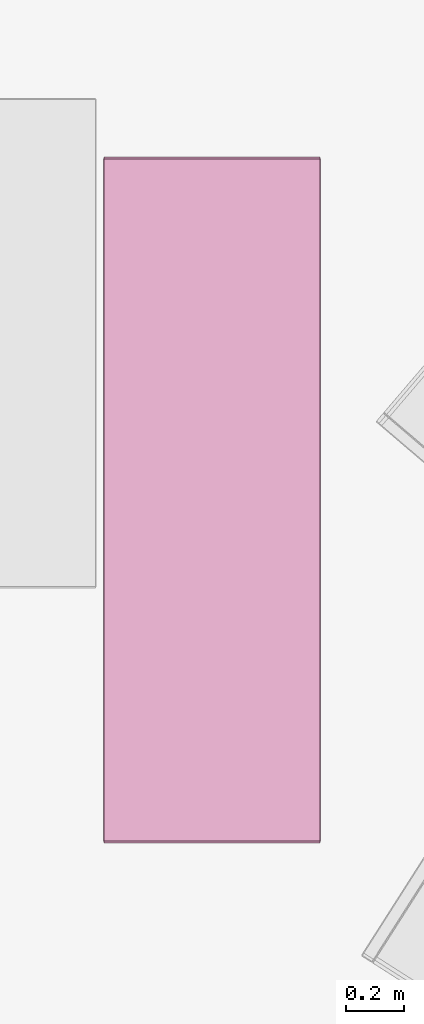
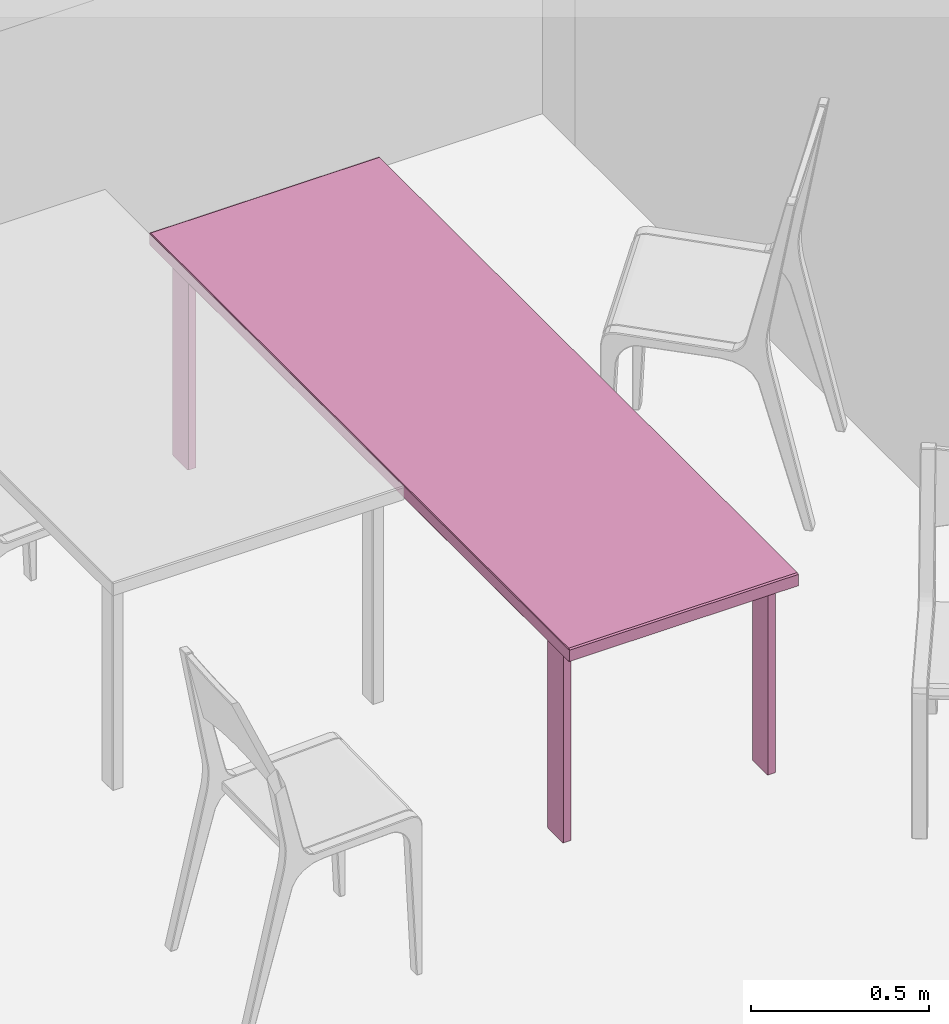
# One storey, part 15 of 26: 1 furnishing.
"""IFC2X3 building model written with IfcOpenShell, lengths in metres."""

from ifc_helpers import new_model, si_unit, direction, frame, origin_with_axes, place, context, project, spatial, faceted_brep, type_object, element, save


model = new_model("IFC2X3")

# Units and contexts
model_context = context("Model", 3, precision=1e-05, world=origin_with_axes(), true_north=direction((0.996, -0.093, 0.0)))
ifc_project = project(units=[si_unit("AREAUNIT", "SQUARE_METRE"), si_unit("LENGTHUNIT", "METRE")], contexts=[model_context])

# Site, building, storey, space
site_placement = place(None, origin_with_axes())
site = spatial("IfcSite", under=ifc_project, at=site_placement, Name="Site", CompositionType="ELEMENT")
building_placement = place(site_placement, origin_with_axes())
building = spatial("IfcBuilding", under=site, at=building_placement, Name="Building", CompositionType="ELEMENT")
storey_placement = place(building_placement, frame((0.0, 0.0, 0.0500001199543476), z_axis=(0.0, 0.0, 1.0), x_axis=(1.0, 0.0, 0.0)))
storey = spatial("IfcBuildingStorey", under=building, at=storey_placement, Name="Story 0", CompositionType="ELEMENT", Elevation=0.0500000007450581)
space_placement = place(storey_placement, frame((2.34669395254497, 6.80580808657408, 0.0), z_axis=(0.0, 0.0, 1.0), x_axis=(1.0, 0.0, 0.0)))
space = spatial("IfcSpace", under=storey, at=space_placement, Name="010", CompositionType="ELEMENT", InteriorOrExteriorSpace="INTERNAL")

# Furnishing
furniture_type = type_object("IfcFurnitureType", Name="73f42357-d802-443e-b357-8b5bc0ae0b0e")
furnishing_placement = place(space_placement, frame((2.22148040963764, 2.43083665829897, 0.363974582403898), z_axis=(0.0, 0.0, 0.999999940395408), x_axis=(0.999999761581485, 0.0, 0.0)))
element("IfcFurnishingElement", 1, at=furnishing_placement, inside=space, type_object=furniture_type, Name="Table", ObjectType="Table", context=model_context, shape_type="Brep", body=[
    faceted_brep([(0.3719, 1.1829, 0.3218), (-0.3719, 1.1829, 0.3218), (0.3719, 1.1829, 0.3608), (-0.3719, 1.1829, 0.3608), (0.3719, 1.1829, 0.3608), (-0.3719, 1.1829, 0.3218), (0.3188, -1.0952, 0.3299), (0.3188, -1.0177, 0.3299), (0.3188, -1.0952, -0.3608), (0.3188, -1.0177, -0.3608), (0.3188, -1.0952, -0.3608), (0.3188, -1.0177, 0.3299), (0.3452, -1.1012, 0.3299), (0.3207, -1.1012, 0.3299), (0.3452, -1.1012, -0.3608), (0.3207, -1.1012, -0.3608), (0.3452, -1.1012, -0.3608), (0.3207, -1.1012, 0.3299), (0.3471, -1.0177, 0.3299), (0.3471, -1.0952, 0.3299), (0.3471, -1.0177, -0.3608), (0.3471, -1.0952, -0.3608), (0.3471, -1.0177, -0.3608), (0.3471, -1.0952, 0.3299), (0.3207, -1.0117, 0.3299), (0.3452, -1.0117, 0.3299), (0.3207, -1.0117, -0.3608), (0.3452, -1.0117, -0.3608), (0.3207, -1.0117, -0.3608), (0.3452, -1.0117, 0.3299), (0.3188, 1.0952, 0.3299), (0.3188, 1.0952, -0.3608), (0.3188, 1.0177, 0.3299), (0.3188, 1.0177, -0.3608), (0.3188, 1.0177, 0.3299), (0.3188, 1.0952, -0.3608), (0.3452, 1.1012, 0.3299), (0.3452, 1.1012, -0.3608), (0.3207, 1.1012, 0.3299), (0.3207, 1.1012, -0.3608), (0.3207, 1.1012, 0.3299), (0.3452, 1.1012, -0.3608), (0.3471, 1.0177, 0.3299), (0.3471, 1.0177, -0.3608), (0.3471, 1.0952, 0.3299), (0.3471, 1.0952, -0.3608), (0.3471, 1.0952, 0.3299), (0.3471, 1.0177, -0.3608), (0.3207, 1.0117, 0.3299), (0.3207, 1.0117, -0.3608), (0.3452, 1.0117, 0.3299), (0.3452, 1.0117, -0.3608), (0.3452, 1.0117, 0.3299), (0.3207, 1.0117, -0.3608), (0.3738, 1.177, 0.3218), (0.3738, 1.177, 0.3608), (0.3738, -1.177, 0.3218), (0.3738, -1.177, 0.3608), (0.3738, -1.177, 0.3218), (0.3738, 1.177, 0.3608), (-0.3738, 1.177, 0.3608), (-0.3738, 1.177, 0.3218), (-0.3738, -1.177, 0.3608), (-0.3738, -1.177, 0.3218), (-0.3738, -1.177, 0.3608), (-0.3738, 1.177, 0.3218), (-0.3188, -1.0952, 0.3299), (-0.3188, -1.0952, -0.3608), (-0.3188, -1.0177, 0.3299), (-0.3188, -1.0177, -0.3608), (-0.3188, -1.0177, 0.3299), (-0.3188, -1.0952, -0.3608), (-0.3452, -1.1012, 0.3299), (-0.3452, -1.1012, -0.3608), (-0.3207, -1.1012, 0.3299), (-0.3207, -1.1012, -0.3608), (-0.3207, -1.1012, 0.3299), (-0.3452, -1.1012, -0.3608), (-0.3471, -1.0177, 0.3299), (-0.3471, -1.0177, -0.3608), (-0.3471, -1.0952, 0.3299), (-0.3471, -1.0952, -0.3608), (-0.3471, -1.0952, 0.3299), (-0.3471, -1.0177, -0.3608), (-0.3207, -1.0117, 0.3299), (-0.3207, -1.0117, -0.3608), (-0.3452, -1.0117, 0.3299), (-0.3452, -1.0117, -0.3608), (-0.3452, -1.0117, 0.3299), (-0.3207, -1.0117, -0.3608), (-0.3188, 1.0952, 0.3299), (-0.3188, 1.0177, 0.3299), (-0.3188, 1.0952, -0.3608), (-0.3188, 1.0177, -0.3608), (-0.3188, 1.0952, -0.3608), (-0.3188, 1.0177, 0.3299), (-0.3452, 1.1012, 0.3299), (-0.3207, 1.1012, 0.3299), (-0.3452, 1.1012, -0.3608), (-0.3207, 1.1012, -0.3608), (-0.3452, 1.1012, -0.3608), (-0.3207, 1.1012, 0.3299), (-0.3471, 1.0177, 0.3299), (-0.3471, 1.0952, 0.3299), (-0.3471, 1.0177, -0.3608), (-0.3471, 1.0952, -0.3608), (-0.3471, 1.0177, -0.3608), (-0.3471, 1.0952, 0.3299), (-0.3207, 1.0117, 0.3299), (-0.3452, 1.0117, 0.3299), (-0.3207, 1.0117, -0.3608), (-0.3452, 1.0117, -0.3608), (-0.3207, 1.0117, -0.3608), (-0.3452, 1.0117, 0.3299), (-0.3719, 1.177, 0.364), (-0.3719, -1.177, 0.364), (0.3719, 1.177, 0.364), (0.3719, -1.177, 0.364), (0.3719, 1.177, 0.364), (-0.3719, -1.177, 0.364), (0.3719, -1.1829, 0.3218), (0.3719, -1.1829, 0.3608), (-0.3719, -1.1829, 0.3218), (-0.3719, -1.1829, 0.3608), (-0.3719, -1.1829, 0.3218), (0.3719, -1.1829, 0.3608), (0.3719, -1.177, 0.3185), (-0.3719, -1.177, 0.3185), (0.3719, 1.177, 0.3185), (-0.3719, 1.177, 0.3185), (0.3719, 1.177, 0.3185), (-0.3719, -1.177, 0.3185), (0.3452, -1.0952, 0.3331), (0.3452, -1.0177, 0.3331), (0.3207, -1.0952, 0.3331), (0.3207, -1.0177, 0.3331), (0.3207, -1.0952, 0.3331), (0.3452, -1.0177, 0.3331), (0.3452, -1.0177, -0.364), (0.3452, -1.0952, -0.364), (0.3207, -1.0177, -0.364), (0.3207, -1.0952, -0.364), (0.3207, -1.0177, -0.364), (0.3452, -1.0952, -0.364), (0.3452, 1.0952, -0.364), (0.3452, 1.0177, -0.364), (0.3207, 1.0952, -0.364), (0.3207, 1.0177, -0.364), (0.3207, 1.0952, -0.364), (0.3452, 1.0177, -0.364), (0.3452, 1.0177, 0.3331), (0.3452, 1.0952, 0.3331), (0.3207, 1.0177, 0.3331), (0.3207, 1.0952, 0.3331), (0.3207, 1.0177, 0.3331), (0.3452, 1.0952, 0.3331), (-0.3452, -1.0952, -0.364), (-0.3452, -1.0177, -0.364), (-0.3207, -1.0952, -0.364), (-0.3207, -1.0177, -0.364), (-0.3207, -1.0952, -0.364), (-0.3452, -1.0177, -0.364), (-0.3452, -1.0177, 0.3331), (-0.3452, -1.0952, 0.3331), (-0.3207, -1.0177, 0.3331), (-0.3207, -1.0952, 0.3331), (-0.3207, -1.0177, 0.3331), (-0.3452, -1.0952, 0.3331), (-0.3452, 1.0952, 0.3331), (-0.3452, 1.0177, 0.3331), (-0.3207, 1.0952, 0.3331), (-0.3207, 1.0177, 0.3331), (-0.3207, 1.0952, 0.3331), (-0.3452, 1.0177, 0.3331), (-0.3452, 1.0177, -0.364), (-0.3452, 1.0952, -0.364), (-0.3207, 1.0177, -0.364), (-0.3207, 1.0952, -0.364), (-0.3207, 1.0177, -0.364), (-0.3452, 1.0952, -0.364), (-0.3719, 1.177, 0.364), (-0.3719, 1.1829, 0.3608), (-0.3738, 1.177, 0.3608), (0.3207, -1.0177, -0.364), (0.3188, -1.0177, -0.3608), (0.3207, -1.0117, -0.3608), (0.3207, -1.0952, -0.364), (0.3207, -1.1012, -0.3608), (0.3188, -1.0952, -0.3608), (0.3452, -1.0952, -0.364), (0.3471, -1.0952, -0.3608), (0.3452, -1.1012, -0.3608), (0.3452, -1.0177, -0.364), (0.3452, -1.0117, -0.3608), (0.3471, -1.0177, -0.3608), (0.3207, -1.0177, 0.3331), (0.3207, -1.0117, 0.3299), (0.3188, -1.0177, 0.3299), (0.3207, 1.0117, -0.3608), (0.3188, 1.0177, -0.3608), (0.3207, 1.0177, -0.364), (0.3207, 1.0952, 0.3331), (0.3207, 1.1012, 0.3299), (0.3188, 1.0952, 0.3299), (0.3452, 1.0952, 0.3331), (0.3471, 1.0952, 0.3299), (0.3452, 1.1012, 0.3299), (0.3452, 1.0177, 0.3331), (0.3452, 1.0117, 0.3299), (0.3471, 1.0177, 0.3299), (0.3719, -1.1829, 0.3608), (0.3738, -1.177, 0.3608), (0.3719, -1.177, 0.364), (0.3719, 1.177, 0.364), (0.3738, 1.177, 0.3608), (0.3719, 1.1829, 0.3608), (-0.3719, -1.1829, 0.3218), (-0.3738, -1.177, 0.3218), (-0.3719, -1.177, 0.3185), (-0.3719, 1.177, 0.3185), (-0.3738, 1.177, 0.3218), (-0.3719, 1.1829, 0.3218), (-0.3207, -1.0117, -0.3608), (-0.3188, -1.0177, -0.3608), (-0.3207, -1.0177, -0.364), (-0.3207, -1.0952, 0.3331), (-0.3207, -1.1012, 0.3299), (-0.3188, -1.0952, 0.3299), (-0.3452, -1.0952, 0.3331), (-0.3471, -1.0952, 0.3299), (-0.3452, -1.1012, 0.3299), (-0.3452, -1.0177, 0.3331), (-0.3452, -1.0117, 0.3299), (-0.3471, -1.0177, 0.3299), (-0.3207, 1.0177, -0.364), (-0.3188, 1.0177, -0.3608), (-0.3207, 1.0117, -0.3608), (-0.3207, 1.0952, -0.364), (-0.3207, 1.1012, -0.3608), (-0.3188, 1.0952, -0.3608), (-0.3452, 1.0952, -0.364), (-0.3471, 1.0952, -0.3608), (-0.3452, 1.1012, -0.3608), (-0.3452, 1.0177, -0.364), (-0.3452, 1.0117, -0.3608), (-0.3471, 1.0177, -0.3608), (-0.3207, 1.0177, 0.3331), (-0.3207, 1.0117, 0.3299), (-0.3188, 1.0177, 0.3299), (-0.3719, -1.1829, 0.3608), (-0.3719, -1.177, 0.364), (-0.3738, -1.177, 0.3608), (0.3719, -1.1829, 0.3218), (0.3719, -1.177, 0.3185), (0.3738, -1.177, 0.3218), (0.3738, 1.177, 0.3218), (0.3719, 1.177, 0.3185), (0.3719, 1.1829, 0.3218), (0.3452, -1.0117, 0.3299), (0.3452, -1.0177, 0.3331), (0.3471, -1.0177, 0.3299), (0.3471, -1.0952, 0.3299), (0.3452, -1.0952, 0.3331), (0.3452, -1.1012, 0.3299), (0.3207, -1.1012, 0.3299), (0.3207, -1.0952, 0.3331), (0.3188, -1.0952, 0.3299), (0.3452, 1.0117, -0.3608), (0.3452, 1.0177, -0.364), (0.3471, 1.0177, -0.3608), (0.3471, 1.0952, -0.3608), (0.3452, 1.0952, -0.364), (0.3452, 1.1012, -0.3608), (0.3207, 1.1012, -0.3608), (0.3207, 1.0952, -0.364), (0.3188, 1.0952, -0.3608), (0.3207, 1.0117, 0.3299), (0.3207, 1.0177, 0.3331), (0.3188, 1.0177, 0.3299), (-0.3452, -1.0117, -0.3608), (-0.3452, -1.0177, -0.364), (-0.3471, -1.0177, -0.3608), (-0.3471, -1.0952, -0.3608), (-0.3452, -1.0952, -0.364), (-0.3452, -1.1012, -0.3608), (-0.3207, -1.1012, -0.3608), (-0.3207, -1.0952, -0.364), (-0.3188, -1.0952, -0.3608), (-0.3207, -1.0117, 0.3299), (-0.3207, -1.0177, 0.3331), (-0.3188, -1.0177, 0.3299), (-0.3452, 1.0117, 0.3299), (-0.3452, 1.0177, 0.3331), (-0.3471, 1.0177, 0.3299), (-0.3471, 1.0952, 0.3299), (-0.3452, 1.0952, 0.3331), (-0.3452, 1.1012, 0.3299), (-0.3207, 1.1012, 0.3299), (-0.3207, 1.0952, 0.3331), (-0.3188, 1.0952, 0.3299), (-0.3719, 1.1829, 0.3608), (-0.3719, 1.1829, 0.3218), (-0.3738, 1.177, 0.3608), (-0.3738, 1.177, 0.3218), (-0.3738, 1.177, 0.3608), (-0.3719, 1.1829, 0.3218), (-0.3719, 1.1829, 0.3218), (0.3719, 1.1829, 0.3218), (-0.3719, 1.177, 0.3185), (0.3719, 1.177, 0.3185), (-0.3719, 1.177, 0.3185), (0.3719, 1.1829, 0.3218), (0.3719, 1.1829, 0.3218), (0.3719, 1.1829, 0.3608), (0.3738, 1.177, 0.3218), (0.3738, 1.177, 0.3608), (0.3738, 1.177, 0.3218), (0.3719, 1.1829, 0.3608), (0.3719, 1.1829, 0.3608), (-0.3719, 1.1829, 0.3608), (0.3719, 1.177, 0.364), (-0.3719, 1.177, 0.364), (0.3719, 1.177, 0.364), (-0.3719, 1.1829, 0.3608), (0.3188, -1.0177, -0.3608), (0.3188, -1.0177, 0.3299), (0.3207, -1.0117, -0.3608), (0.3207, -1.0117, 0.3299), (0.3207, -1.0117, -0.3608), (0.3188, -1.0177, 0.3299), (0.3188, -1.0177, 0.3299), (0.3188, -1.0952, 0.3299), (0.3207, -1.0177, 0.3331), (0.3207, -1.0952, 0.3331), (0.3207, -1.0177, 0.3331), (0.3188, -1.0952, 0.3299), (0.3188, -1.0952, 0.3299), (0.3188, -1.0952, -0.3608), (0.3207, -1.1012, 0.3299), (0.3207, -1.1012, -0.3608), (0.3207, -1.1012, 0.3299), (0.3188, -1.0952, -0.3608), (0.3188, -1.0952, -0.3608), (0.3188, -1.0177, -0.3608), (0.3207, -1.0952, -0.364), (0.3207, -1.0177, -0.364), (0.3207, -1.0952, -0.364), (0.3188, -1.0177, -0.3608), (0.3207, -1.1012, 0.3299), (0.3452, -1.1012, 0.3299), (0.3207, -1.0952, 0.3331), (0.3452, -1.0952, 0.3331), (0.3207, -1.0952, 0.3331), (0.3452, -1.1012, 0.3299), (0.3452, -1.1012, 0.3299), (0.3452, -1.1012, -0.3608), (0.3471, -1.0952, 0.3299), (0.3471, -1.0952, -0.3608), (0.3471, -1.0952, 0.3299), (0.3452, -1.1012, -0.3608), (0.3452, -1.1012, -0.3608), (0.3207, -1.1012, -0.3608), (0.3452, -1.0952, -0.364), (0.3207, -1.0952, -0.364), (0.3452, -1.0952, -0.364), (0.3207, -1.1012, -0.3608), (0.3471, -1.0952, 0.3299), (0.3471, -1.0177, 0.3299), (0.3452, -1.0952, 0.3331), (0.3452, -1.0177, 0.3331), (0.3452, -1.0952, 0.3331), (0.3471, -1.0177, 0.3299), (0.3471, -1.0177, 0.3299), (0.3471, -1.0177, -0.3608), (0.3452, -1.0117, 0.3299), (0.3452, -1.0117, -0.3608), (0.3452, -1.0117, 0.3299), (0.3471, -1.0177, -0.3608), (0.3471, -1.0177, -0.3608), (0.3471, -1.0952, -0.3608), (0.3452, -1.0177, -0.364), (0.3452, -1.0952, -0.364), (0.3452, -1.0177, -0.364), (0.3471, -1.0952, -0.3608), (0.3452, -1.0117, 0.3299), (0.3207, -1.0117, 0.3299), (0.3452, -1.0177, 0.3331), (0.3207, -1.0177, 0.3331), (0.3452, -1.0177, 0.3331), (0.3207, -1.0117, 0.3299), (0.3207, -1.0117, -0.3608), (0.3452, -1.0117, -0.3608), (0.3207, -1.0177, -0.364), (0.3452, -1.0177, -0.364), (0.3207, -1.0177, -0.364), (0.3452, -1.0117, -0.3608), (0.3188, 1.0177, -0.3608), (0.3188, 1.0952, -0.3608), (0.3207, 1.0177, -0.364), (0.3207, 1.0952, -0.364), (0.3207, 1.0177, -0.364), (0.3188, 1.0952, -0.3608), (0.3188, 1.0952, -0.3608), (0.3188, 1.0952, 0.3299), (0.3207, 1.1012, -0.3608), (0.3207, 1.1012, 0.3299), (0.3207, 1.1012, -0.3608), (0.3188, 1.0952, 0.3299), (0.3188, 1.0952, 0.3299), (0.3188, 1.0177, 0.3299), (0.3207, 1.0952, 0.3331), (0.3207, 1.0177, 0.3331), (0.3207, 1.0952, 0.3331), (0.3188, 1.0177, 0.3299), (0.3188, 1.0177, 0.3299), (0.3188, 1.0177, -0.3608), (0.3207, 1.0117, 0.3299), (0.3207, 1.0117, -0.3608), (0.3207, 1.0117, 0.3299), (0.3188, 1.0177, -0.3608), (0.3207, 1.1012, -0.3608), (0.3452, 1.1012, -0.3608), (0.3207, 1.0952, -0.364), (0.3452, 1.0952, -0.364), (0.3207, 1.0952, -0.364), (0.3452, 1.1012, -0.3608), (0.3452, 1.1012, -0.3608), (0.3452, 1.1012, 0.3299), (0.3471, 1.0952, -0.3608), (0.3471, 1.0952, 0.3299), (0.3471, 1.0952, -0.3608), (0.3452, 1.1012, 0.3299), (0.3452, 1.1012, 0.3299), (0.3207, 1.1012, 0.3299), (0.3452, 1.0952, 0.3331), (0.3207, 1.0952, 0.3331), (0.3452, 1.0952, 0.3331), (0.3207, 1.1012, 0.3299), (0.3471, 1.0952, -0.3608), (0.3471, 1.0177, -0.3608), (0.3452, 1.0952, -0.364), (0.3452, 1.0177, -0.364), (0.3452, 1.0952, -0.364), (0.3471, 1.0177, -0.3608), (0.3471, 1.0177, -0.3608), (0.3471, 1.0177, 0.3299), (0.3452, 1.0117, -0.3608), (0.3452, 1.0117, 0.3299), (0.3452, 1.0117, -0.3608), (0.3471, 1.0177, 0.3299), (0.3471, 1.0177, 0.3299), (0.3471, 1.0952, 0.3299), (0.3452, 1.0177, 0.3331), (0.3452, 1.0952, 0.3331), (0.3452, 1.0177, 0.3331), (0.3471, 1.0952, 0.3299), (0.3452, 1.0117, -0.3608), (0.3207, 1.0117, -0.3608), (0.3452, 1.0177, -0.364), (0.3207, 1.0177, -0.364), (0.3452, 1.0177, -0.364), (0.3207, 1.0117, -0.3608), (0.3207, 1.0117, 0.3299), (0.3452, 1.0117, 0.3299), (0.3207, 1.0177, 0.3331), (0.3452, 1.0177, 0.3331), (0.3207, 1.0177, 0.3331), (0.3452, 1.0117, 0.3299), (0.3738, -1.177, 0.3608), (0.3738, 1.177, 0.3608), (0.3719, -1.177, 0.364), (0.3719, 1.177, 0.364), (0.3719, -1.177, 0.364), (0.3738, 1.177, 0.3608), (0.3738, 1.177, 0.3218), (0.3738, -1.177, 0.3218), (0.3719, 1.177, 0.3185), (0.3719, -1.177, 0.3185), (0.3719, 1.177, 0.3185), (0.3738, -1.177, 0.3218), (0.3738, -1.177, 0.3218), (0.3738, -1.177, 0.3608), (0.3719, -1.1829, 0.3218), (0.3719, -1.1829, 0.3608), (0.3719, -1.1829, 0.3218), (0.3738, -1.177, 0.3608), (-0.3738, -1.177, 0.3218), (-0.3738, 1.177, 0.3218), (-0.3719, -1.177, 0.3185), (-0.3719, 1.177, 0.3185), (-0.3719, -1.177, 0.3185), (-0.3738, 1.177, 0.3218), (-0.3738, 1.177, 0.3608), (-0.3738, -1.177, 0.3608), (-0.3719, 1.177, 0.364), (-0.3719, -1.177, 0.364), (-0.3719, 1.177, 0.364), (-0.3738, -1.177, 0.3608), (-0.3738, -1.177, 0.3608), (-0.3738, -1.177, 0.3218), (-0.3719, -1.1829, 0.3608), (-0.3719, -1.1829, 0.3218), (-0.3719, -1.1829, 0.3608), (-0.3738, -1.177, 0.3218), (-0.3188, -1.0177, -0.3608), (-0.3188, -1.0952, -0.3608), (-0.3207, -1.0177, -0.364), (-0.3207, -1.0952, -0.364), (-0.3207, -1.0177, -0.364), (-0.3188, -1.0952, -0.3608), (-0.3188, -1.0952, -0.3608), (-0.3188, -1.0952, 0.3299), (-0.3207, -1.1012, -0.3608), (-0.3207, -1.1012, 0.3299), (-0.3207, -1.1012, -0.3608), (-0.3188, -1.0952, 0.3299), (-0.3188, -1.0952, 0.3299), (-0.3188, -1.0177, 0.3299), (-0.3207, -1.0952, 0.3331), (-0.3207, -1.0177, 0.3331), (-0.3207, -1.0952, 0.3331), (-0.3188, -1.0177, 0.3299), (-0.3188, -1.0177, 0.3299), (-0.3188, -1.0177, -0.3608), (-0.3207, -1.0117, 0.3299), (-0.3207, -1.0117, -0.3608), (-0.3207, -1.0117, 0.3299), (-0.3188, -1.0177, -0.3608), (-0.3207, -1.1012, -0.3608), (-0.3452, -1.1012, -0.3608), (-0.3207, -1.0952, -0.364), (-0.3452, -1.0952, -0.364), (-0.3207, -1.0952, -0.364), (-0.3452, -1.1012, -0.3608), (-0.3452, -1.1012, -0.3608), (-0.3452, -1.1012, 0.3299), (-0.3471, -1.0952, -0.3608), (-0.3471, -1.0952, 0.3299), (-0.3471, -1.0952, -0.3608), (-0.3452, -1.1012, 0.3299), (-0.3452, -1.1012, 0.3299), (-0.3207, -1.1012, 0.3299), (-0.3452, -1.0952, 0.3331), (-0.3207, -1.0952, 0.3331), (-0.3452, -1.0952, 0.3331), (-0.3207, -1.1012, 0.3299), (-0.3471, -1.0952, -0.3608), (-0.3471, -1.0177, -0.3608), (-0.3452, -1.0952, -0.364), (-0.3452, -1.0177, -0.364), (-0.3452, -1.0952, -0.364), (-0.3471, -1.0177, -0.3608), (-0.3471, -1.0177, -0.3608), (-0.3471, -1.0177, 0.3299), (-0.3452, -1.0117, -0.3608), (-0.3452, -1.0117, 0.3299), (-0.3452, -1.0117, -0.3608), (-0.3471, -1.0177, 0.3299), (-0.3471, -1.0177, 0.3299), (-0.3471, -1.0952, 0.3299), (-0.3452, -1.0177, 0.3331), (-0.3452, -1.0952, 0.3331), (-0.3452, -1.0177, 0.3331), (-0.3471, -1.0952, 0.3299), (-0.3452, -1.0117, -0.3608), (-0.3207, -1.0117, -0.3608), (-0.3452, -1.0177, -0.364), (-0.3207, -1.0177, -0.364), (-0.3452, -1.0177, -0.364), (-0.3207, -1.0117, -0.3608), (-0.3207, -1.0117, 0.3299), (-0.3452, -1.0117, 0.3299), (-0.3207, -1.0177, 0.3331), (-0.3452, -1.0177, 0.3331), (-0.3207, -1.0177, 0.3331), (-0.3452, -1.0117, 0.3299), (-0.3188, 1.0177, -0.3608), (-0.3188, 1.0177, 0.3299), (-0.3207, 1.0117, -0.3608), (-0.3207, 1.0117, 0.3299), (-0.3207, 1.0117, -0.3608), (-0.3188, 1.0177, 0.3299), (-0.3188, 1.0177, 0.3299), (-0.3188, 1.0952, 0.3299), (-0.3207, 1.0177, 0.3331), (-0.3207, 1.0952, 0.3331), (-0.3207, 1.0177, 0.3331), (-0.3188, 1.0952, 0.3299), (-0.3188, 1.0952, 0.3299), (-0.3188, 1.0952, -0.3608), (-0.3207, 1.1012, 0.3299), (-0.3207, 1.1012, -0.3608), (-0.3207, 1.1012, 0.3299), (-0.3188, 1.0952, -0.3608), (-0.3188, 1.0952, -0.3608), (-0.3188, 1.0177, -0.3608), (-0.3207, 1.0952, -0.364), (-0.3207, 1.0177, -0.364), (-0.3207, 1.0952, -0.364), (-0.3188, 1.0177, -0.3608), (-0.3207, 1.1012, 0.3299), (-0.3452, 1.1012, 0.3299), (-0.3207, 1.0952, 0.3331), (-0.3452, 1.0952, 0.3331), (-0.3207, 1.0952, 0.3331), (-0.3452, 1.1012, 0.3299), (-0.3452, 1.1012, 0.3299), (-0.3452, 1.1012, -0.3608), (-0.3471, 1.0952, 0.3299), (-0.3471, 1.0952, -0.3608), (-0.3471, 1.0952, 0.3299), (-0.3452, 1.1012, -0.3608), (-0.3452, 1.1012, -0.3608), (-0.3207, 1.1012, -0.3608), (-0.3452, 1.0952, -0.364), (-0.3207, 1.0952, -0.364), (-0.3452, 1.0952, -0.364), (-0.3207, 1.1012, -0.3608), (-0.3471, 1.0952, 0.3299), (-0.3471, 1.0177, 0.3299), (-0.3452, 1.0952, 0.3331), (-0.3452, 1.0177, 0.3331), (-0.3452, 1.0952, 0.3331), (-0.3471, 1.0177, 0.3299), (-0.3471, 1.0177, 0.3299), (-0.3471, 1.0177, -0.3608), (-0.3452, 1.0117, 0.3299), (-0.3452, 1.0117, -0.3608), (-0.3452, 1.0117, 0.3299), (-0.3471, 1.0177, -0.3608), (-0.3471, 1.0177, -0.3608), (-0.3471, 1.0952, -0.3608), (-0.3452, 1.0177, -0.364), (-0.3452, 1.0952, -0.364), (-0.3452, 1.0177, -0.364), (-0.3471, 1.0952, -0.3608), (-0.3452, 1.0117, 0.3299), (-0.3207, 1.0117, 0.3299), (-0.3452, 1.0177, 0.3331), (-0.3207, 1.0177, 0.3331), (-0.3452, 1.0177, 0.3331), (-0.3207, 1.0117, 0.3299), (-0.3207, 1.0117, -0.3608), (-0.3452, 1.0117, -0.3608), (-0.3207, 1.0177, -0.364), (-0.3452, 1.0177, -0.364), (-0.3207, 1.0177, -0.364), (-0.3452, 1.0117, -0.3608), (0.3719, -1.177, 0.364), (-0.3719, -1.177, 0.364), (0.3719, -1.1829, 0.3608), (-0.3719, -1.1829, 0.3608), (0.3719, -1.1829, 0.3608), (-0.3719, -1.177, 0.364), (0.3719, -1.1829, 0.3218), (-0.3719, -1.1829, 0.3218), (0.3719, -1.177, 0.3185), (-0.3719, -1.177, 0.3185), (0.3719, -1.177, 0.3185), (-0.3719, -1.1829, 0.3218)], [[[0, 1, 2]], [[3, 4, 5]], [[6, 7, 8]], [[9, 10, 11]], [[12, 13, 14]], [[15, 16, 17]], [[18, 19, 20]], [[21, 22, 23]], [[24, 25, 26]], [[27, 28, 29]], [[30, 31, 32]], [[33, 34, 35]], [[36, 37, 38]], [[39, 40, 41]], [[42, 43, 44]], [[45, 46, 47]], [[48, 49, 50]], [[51, 52, 53]], [[54, 55, 56]], [[57, 58, 59]], [[60, 61, 62]], [[63, 64, 65]], [[66, 67, 68]], [[69, 70, 71]], [[72, 73, 74]], [[75, 76, 77]], [[78, 79, 80]], [[81, 82, 83]], [[84, 85, 86]], [[87, 88, 89]], [[90, 91, 92]], [[93, 94, 95]], [[96, 97, 98]], [[99, 100, 101]], [[102, 103, 104]], [[105, 106, 107]], [[108, 109, 110]], [[111, 112, 113]], [[114, 115, 116]], [[117, 118, 119]], [[120, 121, 122]], [[123, 124, 125]], [[126, 127, 128]], [[129, 130, 131]], [[132, 133, 134]], [[135, 136, 137]], [[138, 139, 140]], [[141, 142, 143]], [[144, 145, 146]], [[147, 148, 149]], [[150, 151, 152]], [[153, 154, 155]], [[156, 157, 158]], [[159, 160, 161]], [[162, 163, 164]], [[165, 166, 167]], [[168, 169, 170]], [[171, 172, 173]], [[174, 175, 176]], [[177, 178, 179]], [[180, 181, 182]], [[183, 184, 185]], [[186, 187, 188]], [[189, 190, 191]], [[192, 193, 194]], [[195, 196, 197]], [[198, 199, 200]], [[201, 202, 203]], [[204, 205, 206]], [[207, 208, 209]], [[210, 211, 212]], [[213, 214, 215]], [[216, 217, 218]], [[219, 220, 221]], [[222, 223, 224]], [[225, 226, 227]], [[228, 229, 230]], [[231, 232, 233]], [[234, 235, 236]], [[237, 238, 239]], [[240, 241, 242]], [[243, 244, 245]], [[246, 247, 248]], [[249, 250, 251]], [[252, 253, 254]], [[255, 256, 257]], [[258, 259, 260]], [[261, 262, 263]], [[264, 265, 266]], [[267, 268, 269]], [[270, 271, 272]], [[273, 274, 275]], [[276, 277, 278]], [[279, 280, 281]], [[282, 283, 284]], [[285, 286, 287]], [[288, 289, 290]], [[291, 292, 293]], [[294, 295, 296]], [[297, 298, 299]], [[300, 301, 302]], [[303, 304, 305]], [[306, 307, 308]], [[309, 310, 311]], [[312, 313, 314]], [[315, 316, 317]], [[318, 319, 320]], [[321, 322, 323]], [[324, 325, 326]], [[327, 328, 329]], [[330, 331, 332]], [[333, 334, 335]], [[336, 337, 338]], [[339, 340, 341]], [[342, 343, 344]], [[345, 346, 347]], [[348, 349, 350]], [[351, 352, 353]], [[354, 355, 356]], [[357, 358, 359]], [[360, 361, 362]], [[363, 364, 365]], [[366, 367, 368]], [[369, 370, 371]], [[372, 373, 374]], [[375, 376, 377]], [[378, 379, 380]], [[381, 382, 383]], [[384, 385, 386]], [[387, 388, 389]], [[390, 391, 392]], [[393, 394, 395]], [[396, 397, 398]], [[399, 400, 401]], [[402, 403, 404]], [[405, 406, 407]], [[408, 409, 410]], [[411, 412, 413]], [[414, 415, 416]], [[417, 418, 419]], [[420, 421, 422]], [[423, 424, 425]], [[426, 427, 428]], [[429, 430, 431]], [[432, 433, 434]], [[435, 436, 437]], [[438, 439, 440]], [[441, 442, 443]], [[444, 445, 446]], [[447, 448, 449]], [[450, 451, 452]], [[453, 454, 455]], [[456, 457, 458]], [[459, 460, 461]], [[462, 463, 464]], [[465, 466, 467]], [[468, 469, 470]], [[471, 472, 473]], [[474, 475, 476]], [[477, 478, 479]], [[480, 481, 482]], [[483, 484, 485]], [[486, 487, 488]], [[489, 490, 491]], [[492, 493, 494]], [[495, 496, 497]], [[498, 499, 500]], [[501, 502, 503]], [[504, 505, 506]], [[507, 508, 509]], [[510, 511, 512]], [[513, 514, 515]], [[516, 517, 518]], [[519, 520, 521]], [[522, 523, 524]], [[525, 526, 527]], [[528, 529, 530]], [[531, 532, 533]], [[534, 535, 536]], [[537, 538, 539]], [[540, 541, 542]], [[543, 544, 545]], [[546, 547, 548]], [[549, 550, 551]], [[552, 553, 554]], [[555, 556, 557]], [[558, 559, 560]], [[561, 562, 563]], [[564, 565, 566]], [[567, 568, 569]], [[570, 571, 572]], [[573, 574, 575]], [[576, 577, 578]], [[579, 580, 581]], [[582, 583, 584]], [[585, 586, 587]], [[588, 589, 590]], [[591, 592, 593]], [[594, 595, 596]], [[597, 598, 599]], [[600, 601, 602]], [[603, 604, 605]], [[606, 607, 608]], [[609, 610, 611]], [[612, 613, 614]], [[615, 616, 617]], [[618, 619, 620]], [[621, 622, 623]], [[624, 625, 626]], [[627, 628, 629]], [[630, 631, 632]], [[633, 634, 635]], [[636, 637, 638]], [[639, 640, 641]], [[642, 643, 644]], [[645, 646, 647]], [[648, 649, 650]], [[651, 652, 653]], [[654, 655, 656]], [[657, 658, 659]]]),
])

save(model, "model.ifc")
